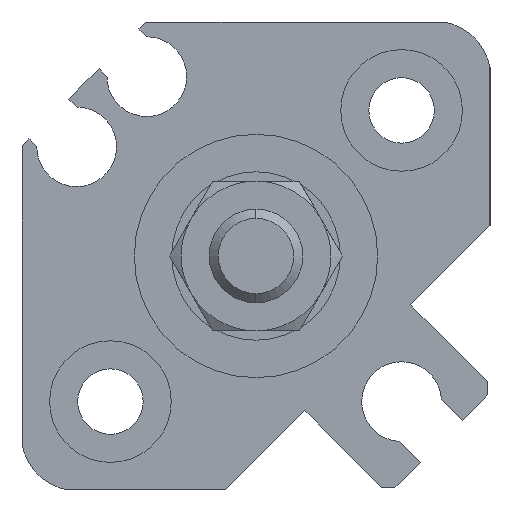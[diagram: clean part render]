
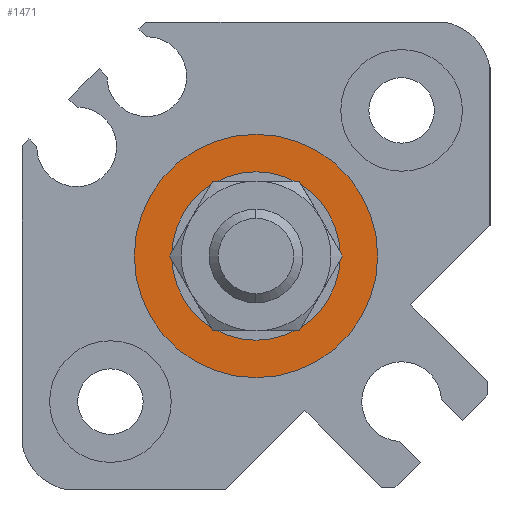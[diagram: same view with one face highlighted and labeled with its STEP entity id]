
A CAD part, left-side view. The second image highlights one B-rep face of the part: STEP entity #1471.
In plain terms, the highlighted planar face has unit normal (-1, 0, 0).
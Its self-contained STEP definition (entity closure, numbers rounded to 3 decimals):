
#85 = EDGE_CURVE ( 'NONE', #4102, #4739, #115, .T. ) ;
#107 = DIRECTION ( 'NONE',  ( 0., 0., -1. ) ) ;
#115 = CIRCLE ( 'NONE', #3723, 4.5 ) ;
#271 = DIRECTION ( 'NONE',  ( 1., 0., 0. ) ) ;
#288 = CARTESIAN_POINT ( 'NONE',  ( 0.9, 0., 0. ) ) ;
#634 = CARTESIAN_POINT ( 'NONE',  ( 0.9, 0., 0. ) ) ;
#674 = CARTESIAN_POINT ( 'NONE',  ( 0.9, 0., 0. ) ) ;
#917 = CARTESIAN_POINT ( 'NONE',  ( 0.9, 0., 6.5 ) ) ;
#1019 = ORIENTED_EDGE ( 'NONE', *, *, #3279, .F. ) ;
#1130 = CARTESIAN_POINT ( 'NONE',  ( 0.9, 0., -4.5 ) ) ;
#1271 = CIRCLE ( 'NONE', #3536, 6.5 ) ;
#1288 = AXIS2_PLACEMENT_3D ( 'NONE', #4159, #4576, #3728 ) ;
#1305 = EDGE_CURVE ( 'NONE', #4739, #4102, #2217, .T. ) ;
#1414 = VERTEX_POINT ( 'NONE', #917 ) ;
#1471 = ADVANCED_FACE ( 'NONE', ( #4146, #4096 ), #4896, .F. ) ;
#1664 = ORIENTED_EDGE ( 'NONE', *, *, #1305, .T. ) ;
#1818 = DIRECTION ( 'NONE',  ( 0., 0., -1. ) ) ;
#2068 = AXIS2_PLACEMENT_3D ( 'NONE', #634, #3670, #2159 ) ;
#2099 = EDGE_LOOP ( 'NONE', ( #1664, #4728 ) ) ;
#2159 = DIRECTION ( 'NONE',  ( 0., 1., 0. ) ) ;
#2217 = CIRCLE ( 'NONE', #3585, 4.5 ) ;
#2284 = DIRECTION ( 'NONE',  ( 0., 0., -1. ) ) ;
#2737 = EDGE_LOOP ( 'NONE', ( #1019, #4128 ) ) ;
#3279 = EDGE_CURVE ( 'NONE', #1414, #4140, #3956, .T. ) ;
#3362 = DIRECTION ( 'NONE',  ( 1., 0., 0. ) ) ;
#3536 = AXIS2_PLACEMENT_3D ( 'NONE', #4704, #4262, #107 ) ;
#3585 = AXIS2_PLACEMENT_3D ( 'NONE', #674, #271, #1818 ) ;
#3619 = CARTESIAN_POINT ( 'NONE',  ( 0.9, 0., 4.5 ) ) ;
#3670 = DIRECTION ( 'NONE',  ( 1., 0., 0. ) ) ;
#3723 = AXIS2_PLACEMENT_3D ( 'NONE', #288, #3362, #2284 ) ;
#3728 = DIRECTION ( 'NONE',  ( 0., 0., -1. ) ) ;
#3956 = CIRCLE ( 'NONE', #1288, 6.5 ) ;
#4096 = FACE_BOUND ( 'NONE', #2099, .T. ) ;
#4102 = VERTEX_POINT ( 'NONE', #1130 ) ;
#4128 = ORIENTED_EDGE ( 'NONE', *, *, #4235, .F. ) ;
#4140 = VERTEX_POINT ( 'NONE', #4518 ) ;
#4146 = FACE_OUTER_BOUND ( 'NONE', #2737, .T. ) ;
#4159 = CARTESIAN_POINT ( 'NONE',  ( 0.9, 0., 0. ) ) ;
#4235 = EDGE_CURVE ( 'NONE', #4140, #1414, #1271, .T. ) ;
#4262 = DIRECTION ( 'NONE',  ( 1., 0., 0. ) ) ;
#4518 = CARTESIAN_POINT ( 'NONE',  ( 0.9, 0., -6.5 ) ) ;
#4576 = DIRECTION ( 'NONE',  ( 1., 0., 0. ) ) ;
#4704 = CARTESIAN_POINT ( 'NONE',  ( 0.9, 0., 0. ) ) ;
#4728 = ORIENTED_EDGE ( 'NONE', *, *, #85, .T. ) ;
#4739 = VERTEX_POINT ( 'NONE', #3619 ) ;
#4896 = PLANE ( 'NONE',  #2068 ) ;
